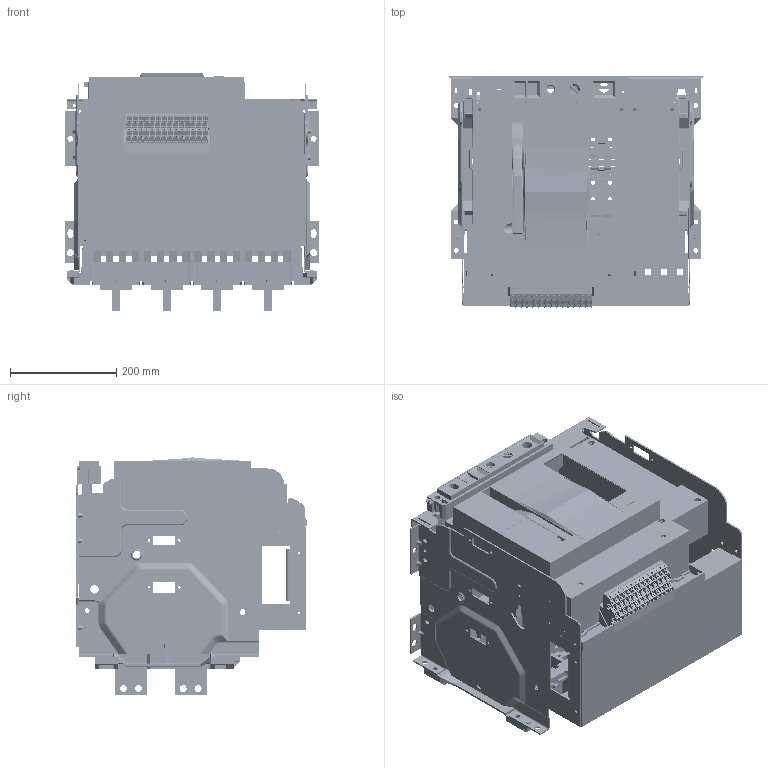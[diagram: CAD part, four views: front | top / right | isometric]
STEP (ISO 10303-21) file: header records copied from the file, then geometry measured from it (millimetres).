
FILE_DESCRIPTION((''),'2;1');
FILE_NAME('NA8G-2500-DO-1600-4P-V_ASM','2020-05-12T16:39:47',('lcc'),(''),'CREO PARAMETRIC BY PTC INC, 2018020','CREO PARAMETRIC BY PTC INC, 2018020','');
FILE_SCHEMA(('CONFIG_CONTROL_DESIGN','SHAPE_APPEARANCE_LAYERS_GROUPS'));
Products named in the file (21): 8-024-490-4P; 8-050-238; 8-050-239; 8-300-089---4; 8ZTD-300-019; 8ZTD-227-004; 8ZTD-235-048; 8ZTD-860-049-2; DW45-2000-DIJIA-4P; 8-060-MIANBAN-11; 8-060-140---4; 8-253-289; 8-253-290; 8-253-309; 8-253-034; 8ZTD-300-279; 8ZTD-064-137; 8ZTD-024-634; 8ZTD-860-699; 8ZTD-580-217-2; NA8G-2500-DO-1600-4P-V_ASM
Assembly tree (40 placements, depth 2):
  NA8G-2500-DO-1600-4P-V_ASM
    8-024-490-4P
    8-050-238
    8-050-239
    8-300-089---4
    8ZTD-300-019
    8ZTD-227-004
    8ZTD-235-048
    8ZTD-860-049-2
    DW45-2000-DIJIA-4P
    8-060-MIANBAN-11
    8-060-140---4
    8-253-289
    8-253-290
    8-253-309
    8-253-034
    8ZTD-300-279
    8ZTD-064-137
    8ZTD-024-634  x14
    8ZTD-860-699
    8ZTD-580-217-2  x8
Bounding box: 476 x 434.04 x 446 mm (x, y, z)
Volume: 6483038.5 mm3; surface area: 3378807.1 mm2
Topology: 39 solids, 48 shells, 9347 faces, 26136 edges, 16805 vertices
Faces by surface type: plane 6463, cylinder 2171, bspline 351, torus 178, cone 109, sphere 75
Entity records: 278721 total; most frequent: CARTESIAN_POINT 55266, ORIENTED_EDGE 38032, DIRECTION 35449, EDGE_CURVE 19047, VECTOR 14147, LINE 14147, VERTEX_POINT 12155, PRESENTATION_STYLE_ASSIGNMENT 10784
